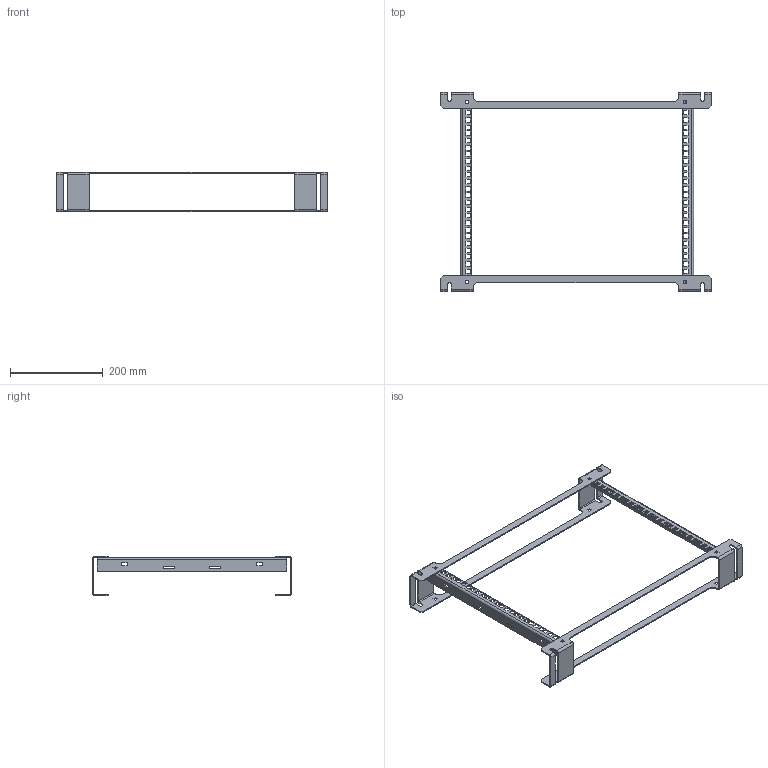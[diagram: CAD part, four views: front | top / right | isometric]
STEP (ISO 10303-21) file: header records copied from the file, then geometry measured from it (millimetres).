
FILE_DESCRIPTION (( 'STEP AP203' ), '1' );
FILE_NAME ('ptra16s.STEP', '2013-07-02T20:45:49', ( 'User' ), ( 'Pentair Inc' ), 'SwSTEP 2.0', 'SolidWorks 2010', '' );
FILE_SCHEMA (( 'CONFIG_CONTROL_DESIGN' ));
Length unit declared in the file: inch
Products named in the file (3): ptra16s; 89072120_87931339; 89060606_89060606
Assembly tree (4 placements, depth 2):
  ptra16s
    89072120_87931339  x2
    89060606_89060606  x2
Bounding box: 585 x 430.17 x 85 mm (x, y, z)
Volume: 247680.3 mm3; surface area: 226921 mm2
Topology: 4 solids, 4 shells, 456 faces, 1268 edges, 808 vertices
Faces by surface type: plane 392, cylinder 64
Entity records: 7657 total; most frequent: CARTESIAN_POINT 1273, ORIENTED_EDGE 1268, DIRECTION 1168, EDGE_CURVE 634, VECTOR 570, LINE 570, VERTEX_POINT 404, AXIS2_PLACEMENT_3D 299
